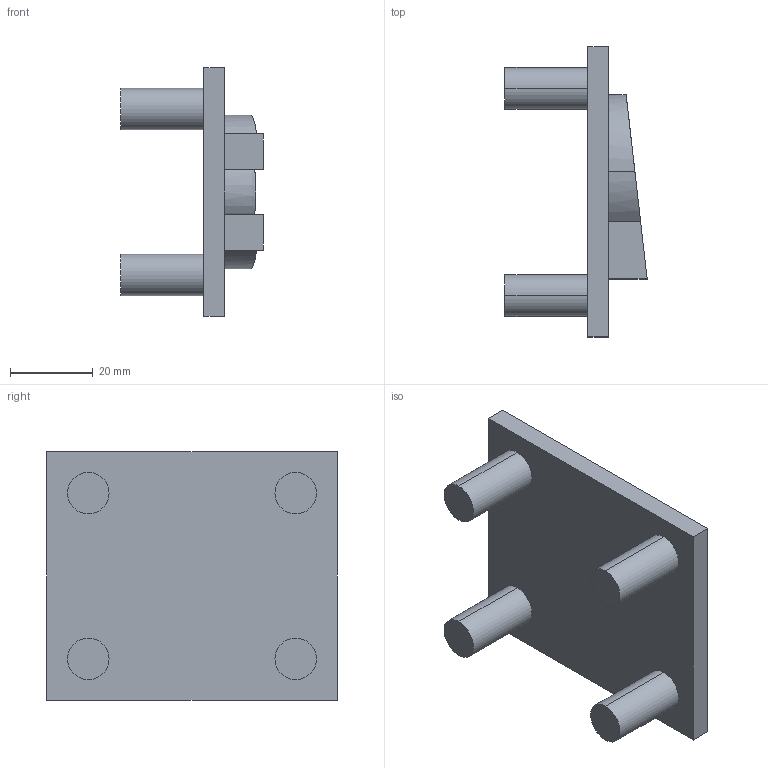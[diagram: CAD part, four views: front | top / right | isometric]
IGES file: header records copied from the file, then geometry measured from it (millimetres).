
Start section: IMSI TurboCAD v14.0
Global section: author: NULL; organization: NULL; date: 20231227.191831; units: millimetre
Bounding box: 34.32 x 70 x 60 mm (x, y, z)
Surface area: 14565.5 mm2 (no closed solid volume)
Topology: 0 solids, 0 shells, 40 faces, 202 edges, 202 vertices
Faces by surface type: revolution 20, extrusion 20
